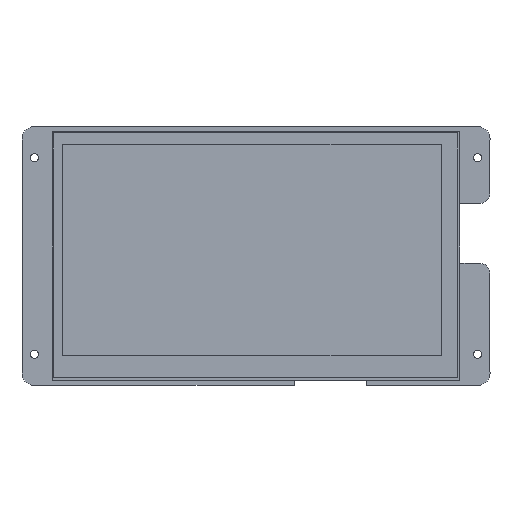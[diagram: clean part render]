
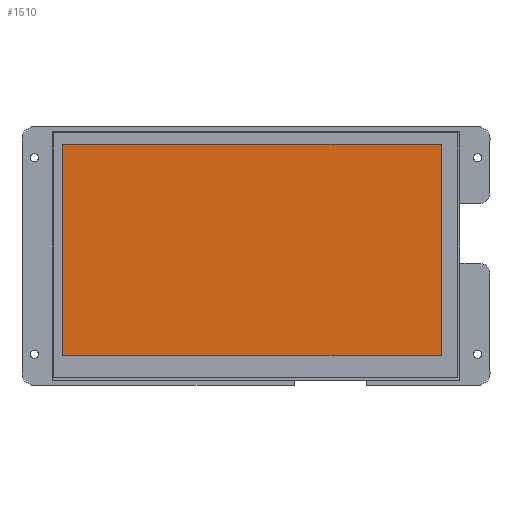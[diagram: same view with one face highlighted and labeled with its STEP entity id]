
A CAD part, top view. The second image highlights one B-rep face of the part: STEP entity #1510.
In plain terms, the highlighted planar face has unit normal (0, 0, 1).
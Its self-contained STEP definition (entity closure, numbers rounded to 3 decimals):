
#499=DIRECTION('',(0.,-1.,0.));
#500=VECTOR('',#499,85.92);
#501=CARTESIAN_POINT('',(19.504,100.093,9.175));
#502=LINE('',#501,#500);
#503=DIRECTION('',(-1.,0.,0.));
#504=VECTOR('',#503,154.08);
#505=CARTESIAN_POINT('',(173.584,100.093,9.175));
#506=LINE('',#505,#504);
#507=DIRECTION('',(0.,1.,0.));
#508=VECTOR('',#507,85.92);
#509=CARTESIAN_POINT('',(173.584,14.173,9.175));
#510=LINE('',#509,#508);
#511=DIRECTION('',(1.,0.,0.));
#512=VECTOR('',#511,154.08);
#513=CARTESIAN_POINT('',(19.504,14.173,9.175));
#514=LINE('',#513,#512);
#827=CARTESIAN_POINT('',(19.504,100.093,9.175));
#828=CARTESIAN_POINT('',(19.504,14.173,9.175));
#829=VERTEX_POINT('',#827);
#830=VERTEX_POINT('',#828);
#831=CARTESIAN_POINT('',(173.584,14.173,9.175));
#832=VERTEX_POINT('',#831);
#833=CARTESIAN_POINT('',(173.584,100.093,9.175));
#834=VERTEX_POINT('',#833);
#1499=CARTESIAN_POINT('',(0.,0.,9.175));
#1500=DIRECTION('',(0.,0.,1.));
#1501=DIRECTION('',(1.,0.,0.));
#1502=AXIS2_PLACEMENT_3D('',#1499,#1500,#1501);
#1503=PLANE('',#1502);
#1504=ORIENTED_EDGE('',*,*,#1451,.F.);
#1505=ORIENTED_EDGE('',*,*,#1466,.F.);
#1506=ORIENTED_EDGE('',*,*,#1480,.F.);
#1507=ORIENTED_EDGE('',*,*,#1493,.F.);
#1508=EDGE_LOOP('',(#1504,#1505,#1506,#1507));
#1509=FACE_OUTER_BOUND('',#1508,.F.);
#1451=EDGE_CURVE('',#829,#830,#502,.T.);
#1466=EDGE_CURVE('',#834,#829,#506,.T.);
#1480=EDGE_CURVE('',#832,#834,#510,.T.);
#1493=EDGE_CURVE('',#830,#832,#514,.T.);
#1510=ADVANCED_FACE('',(#1509),#1503,.T.);
